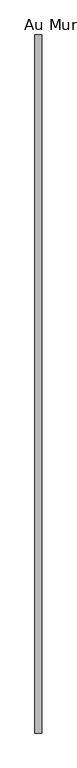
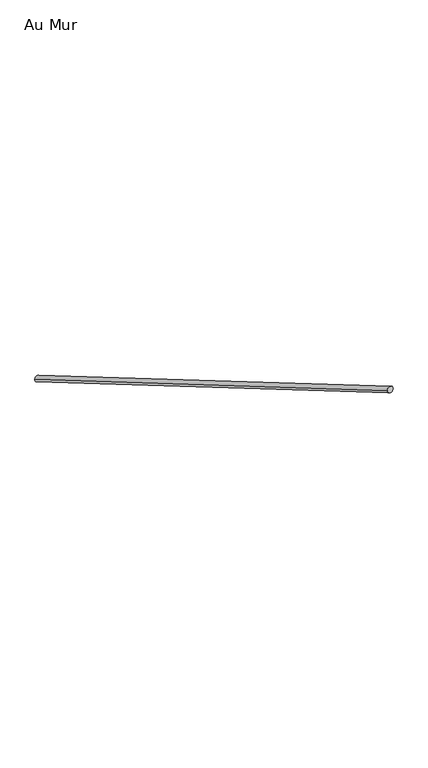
"""IFC4 building model written with IfcOpenShell, lengths in millimetres: railing geometry, Au Mur."""

from ifc_helpers import new_model, si_unit, frame, origin, place, context, project, spatial, ellipse_curve, source, transform, mapped, element, save
from ifc_brep_helpers import plane_surface, cylinder_surface, advanced_brep


def au_mur_5992ff8a(model_context):
    return source(origin(), model_context, "Body", "AdvancedBrep", [
        advanced_brep(
        [(-18703.6938634, 15816.177026, 3360.3284046), (-18733.6938634, 15816.177026, 3360.3284046), (-18703.6938634, 12736.177026, 5168.8928942), (-18733.6938634, 12736.177026, 5168.8928942)],
        [
            (0, 1, ellipse_curve(frame((-18718.6938634, 15816.177026, 3360.3284046), z_axis=(0.0, 1.0, 0.0), x_axis=(0.0, 0.0, -1.0)), 17.3948233, 15.0)),
            (1, 0, ellipse_curve(frame((-18718.6938634, 15816.177026, 3360.3284046), z_axis=(0.0, 1.0, 0.0), x_axis=(0.0, 0.0, -1.0)), 17.3948233, 15.0)),
            (2, 3, ellipse_curve(frame((-18718.6938634, 12736.177026, 5168.8928942), z_axis=(0.0, -1.0, 0.0), x_axis=(0.0, 0.0, -1.0)), 17.3948233, 15.0)),
            (3, 2, ellipse_curve(frame((-18718.6938634, 12736.177026, 5168.8928942), z_axis=(0.0, -1.0, 0.0), x_axis=(0.0, 0.0, -1.0)), 17.3948233, 15.0)),
            (0, 2),
            (3, 1),
        ],
        [
            plane_surface(frame((-18718.6938634, 15816.177026, 3377.7232278), z_axis=(0.0, 1.0, 0.0), x_axis=(0.0, 0.0, -1.0))),
            plane_surface(frame((-18718.6938634, 12736.177026, 5186.2877175), z_axis=(0.0, -1.0, 0.0), x_axis=(0.0, 0.0, -1.0))),
            cylinder_surface(frame((-18718.6938634, 15808.5817111, 3364.7883451), z_axis=(0.0, 0.8623255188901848, -0.5063543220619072), x_axis=(-1.0, 0.0, 0.0)), 15.0),
        ],
        [
            (0, [[1, 2]]),
            (1, [[3, 4]]),
            (2, [[-1, 5, -4, 6]]),
            (2, [[-2, -6, -3, -5]]),
        ],
    ),
    ])


if __name__ == "__main__":
    model = new_model("IFC4")
    model_context = context("Model", 3, world=origin())
    ifc_project = project(units=[si_unit("LENGTHUNIT", "METRE", prefix="MILLI")], contexts=[model_context])
    site = spatial("IfcSite", under=ifc_project)
    building = spatial("IfcBuilding", under=site)
    placement = place(None, origin())
    au_mur_shape = au_mur_5992ff8a(model_context)
    element("IfcRailing", 1, ObjectType="Au Mur", at=placement, inside=building, context=model_context, shape_type="MappedRepresentation", body=[
        mapped(au_mur_shape, transform((0.0, 0.0, 0.0), x_axis=(1.0, 0.0, 0.0), y_axis=(0.0, 1.0, 0.0), z_axis=(0.0, 0.0, 1.0))),
    ])
    save(model, "model.ifc")
